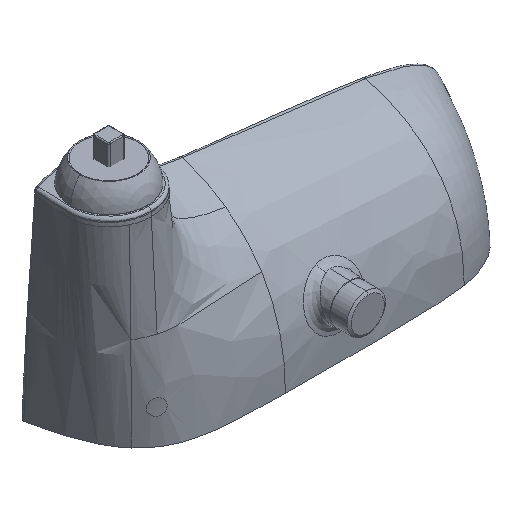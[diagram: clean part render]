
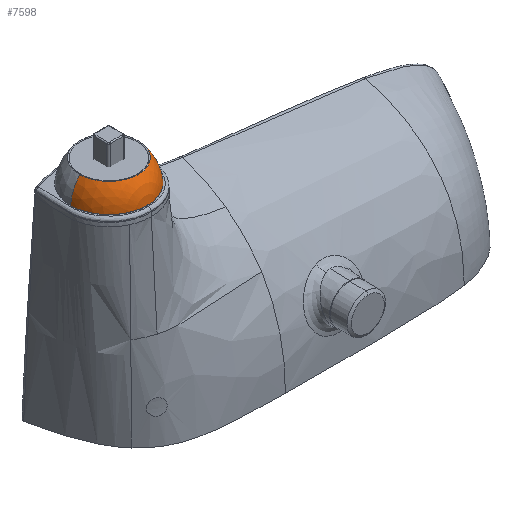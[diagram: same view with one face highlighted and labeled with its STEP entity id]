
A CAD part, isometric view. The second image highlights one B-rep face of the part: STEP entity #7598.
In plain terms, the highlighted spherical face has radius 21 mm.
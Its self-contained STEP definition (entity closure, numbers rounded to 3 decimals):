
#278 = CARTESIAN_POINT ( 'NONE',  ( 88.811, 249.323, 456.132 ) ) ;
#1255 = ORIENTED_EDGE ( 'NONE', *, *, #8342, .F. ) ;
#1295 = CARTESIAN_POINT ( 'NONE',  ( 109.764, 249.323, 468.343 ) ) ;
#1688 = CARTESIAN_POINT ( 'NONE',  ( 109.764, 249.323, 468.343 ) ) ;
#1891 = AXIS2_PLACEMENT_3D ( 'NONE', #8952, #3400, #9872 ) ;
#2198 = DIRECTION ( 'NONE',  ( 0., 1., 0. ) ) ;
#2369 = ORIENTED_EDGE ( 'NONE', *, *, #11846, .T. ) ;
#2593 = DIRECTION ( 'NONE',  ( 0., 1., 0. ) ) ;
#2786 = VERTEX_POINT ( 'NONE', #7047 ) ;
#2899 = SPHERICAL_SURFACE ( 'NONE', #8312, 21. ) ;
#3031 = FACE_OUTER_BOUND ( 'NONE', #3541, .T. ) ;
#3400 = DIRECTION ( 'NONE',  ( 0., 0., -1. ) ) ;
#3541 = EDGE_LOOP ( 'NONE', ( #3980, #9631, #5402, #2369, #1255, #7498 ) ) ;
#3559 = VERTEX_POINT ( 'NONE', #4855 ) ;
#3725 = CARTESIAN_POINT ( 'NONE',  ( 109.764, 249.323, 456.132 ) ) ;
#3767 = CIRCLE ( 'NONE', #5197, 21. ) ;
#3892 = DIRECTION ( 'NONE',  ( 0., 1., 0. ) ) ;
#3980 = ORIENTED_EDGE ( 'NONE', *, *, #7781, .F. ) ;
#3985 = VERTEX_POINT ( 'NONE', #7238 ) ;
#4377 = AXIS2_PLACEMENT_3D ( 'NONE', #4466, #10950, #5398 ) ;
#4466 = CARTESIAN_POINT ( 'NONE',  ( 109.764, 249.323, 454.726 ) ) ;
#4479 = CARTESIAN_POINT ( 'NONE',  ( 109.764, 249.323, 454.726 ) ) ;
#4645 = DIRECTION ( 'NONE',  ( 0., 1., 0. ) ) ;
#4855 = CARTESIAN_POINT ( 'NONE',  ( 109.764, 228.371, 456.132 ) ) ;
#5048 = CARTESIAN_POINT ( 'NONE',  ( 130.716, 249.323, 456.132 ) ) ;
#5101 = VERTEX_POINT ( 'NONE', #278 ) ;
#5197 = AXIS2_PLACEMENT_3D ( 'NONE', #9453, #3892, #10361 ) ;
#5398 = DIRECTION ( 'NONE',  ( 0., 0., -1. ) ) ;
#5402 = ORIENTED_EDGE ( 'NONE', *, *, #7853, .T. ) ;
#5484 = CIRCLE ( 'NONE', #6922, 15.987 ) ;
#5630 = CIRCLE ( 'NONE', #4377, 21. ) ;
#6037 = CIRCLE ( 'NONE', #8756, 15.987 ) ;
#6144 = CIRCLE ( 'NONE', #6988, 20.953 ) ;
#6294 = EDGE_CURVE ( 'NONE', #3985, #2786, #6037, .T. ) ;
#6313 = EDGE_CURVE ( 'NONE', #11516, #3559, #6144, .T. ) ;
#6352 = DIRECTION ( 'NONE',  ( -1., 0., 0. ) ) ;
#6922 = AXIS2_PLACEMENT_3D ( 'NONE', #1295, #7747, #2198 ) ;
#6988 = AXIS2_PLACEMENT_3D ( 'NONE', #3725, #10194, #4645 ) ;
#7047 = CARTESIAN_POINT ( 'NONE',  ( 109.764, 233.337, 468.343 ) ) ;
#7141 = VERTEX_POINT ( 'NONE', #8236 ) ;
#7238 = CARTESIAN_POINT ( 'NONE',  ( 125.75, 249.323, 468.343 ) ) ;
#7498 = ORIENTED_EDGE ( 'NONE', *, *, #6313, .F. ) ;
#7598 = ADVANCED_FACE ( 'NONE', ( #3031 ), #2899, .T. ) ;
#7697 = CIRCLE ( 'NONE', #1891, 20.953 ) ;
#7747 = DIRECTION ( 'NONE',  ( 0., 0., -1. ) ) ;
#7781 = EDGE_CURVE ( 'NONE', #3985, #11516, #3767, .T. ) ;
#7853 = EDGE_CURVE ( 'NONE', #2786, #7141, #5484, .T. ) ;
#8141 = DIRECTION ( 'NONE',  ( 0., 0., -1. ) ) ;
#8236 = CARTESIAN_POINT ( 'NONE',  ( 93.777, 249.323, 468.343 ) ) ;
#8312 = AXIS2_PLACEMENT_3D ( 'NONE', #4479, #10031, #6352 ) ;
#8342 = EDGE_CURVE ( 'NONE', #3559, #5101, #7697, .T. ) ;
#8756 = AXIS2_PLACEMENT_3D ( 'NONE', #1688, #8141, #2593 ) ;
#8952 = CARTESIAN_POINT ( 'NONE',  ( 109.764, 249.323, 456.132 ) ) ;
#9453 = CARTESIAN_POINT ( 'NONE',  ( 109.764, 249.323, 454.726 ) ) ;
#9631 = ORIENTED_EDGE ( 'NONE', *, *, #6294, .T. ) ;
#9872 = DIRECTION ( 'NONE',  ( 0., 1., 0. ) ) ;
#10031 = DIRECTION ( 'NONE',  ( 0., 1., 0. ) ) ;
#10194 = DIRECTION ( 'NONE',  ( 0., 0., -1. ) ) ;
#10361 = DIRECTION ( 'NONE',  ( -1., 0., 0. ) ) ;
#10950 = DIRECTION ( 'NONE',  ( 0., -1., 0. ) ) ;
#11516 = VERTEX_POINT ( 'NONE', #5048 ) ;
#11846 = EDGE_CURVE ( 'NONE', #7141, #5101, #5630, .T. ) ;
